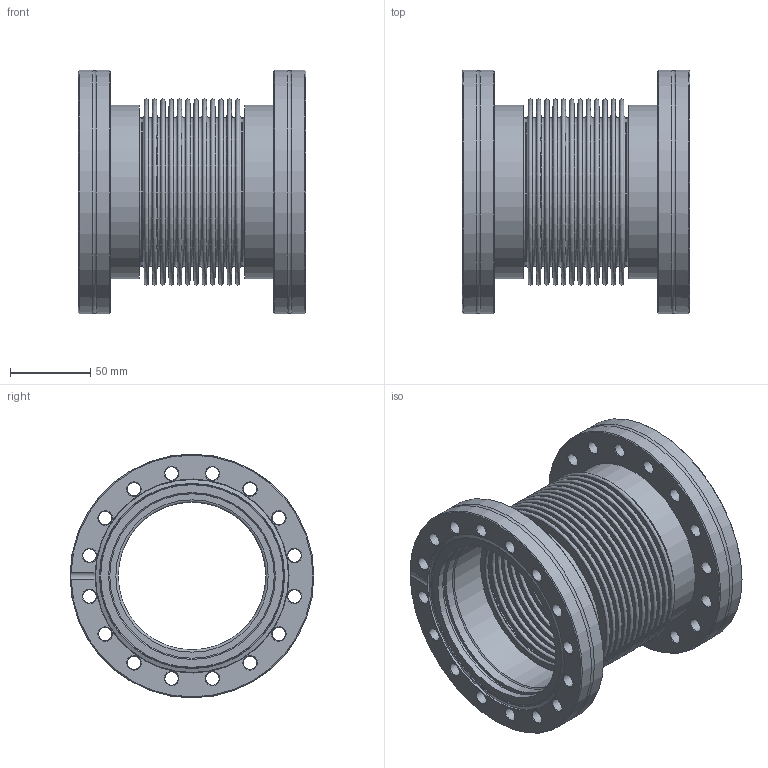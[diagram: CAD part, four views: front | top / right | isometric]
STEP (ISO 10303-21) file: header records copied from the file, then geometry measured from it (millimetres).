
FILE_DESCRIPTION((''),'2;1');
FILE_NAME('W:\13785_CF_Global_Fit_Umsetzung\177_Bellows\M213-354.stp','2010-09-01T14:29:37',('KAA'),(''),'Autodesk Inventor 2011','Autodesk Inventor 2011','');
FILE_SCHEMA(('AUTOMOTIVE_DESIGN { 1 0 10303 214 1 1 1 1 }'));
Length unit declared in the file: millimetre
Products named in the file (1): 213-354
Bounding box: 142 x 152 x 152 mm (x, y, z)
Volume: 397544.8 mm3; surface area: 347799.7 mm2
Topology: 1 solids, 1 shells, 266 faces, 595 edges, 349 vertices
Faces by surface type: cone 124, torus 63, cylinder 57, plane 22
Full cylindrical faces by diameter (mm): 8.4 x32, 92 x2, 92.5 x2, 102.5 x2, 104 x4, 108 x2, 108.5 x4, 109 x1, 120.4 x1, 120.6 x1, 152 x4
Entity records: 6241 total; most frequent: DIRECTION 1130, CARTESIAN_POINT 957, ORIENTED_EDGE 628, EDGE_LOOP 588, AXIS2_PLACEMENT_3D 563, FACE_BOUND 322, EDGE_CURVE 314, VERTEX_POINT 306
